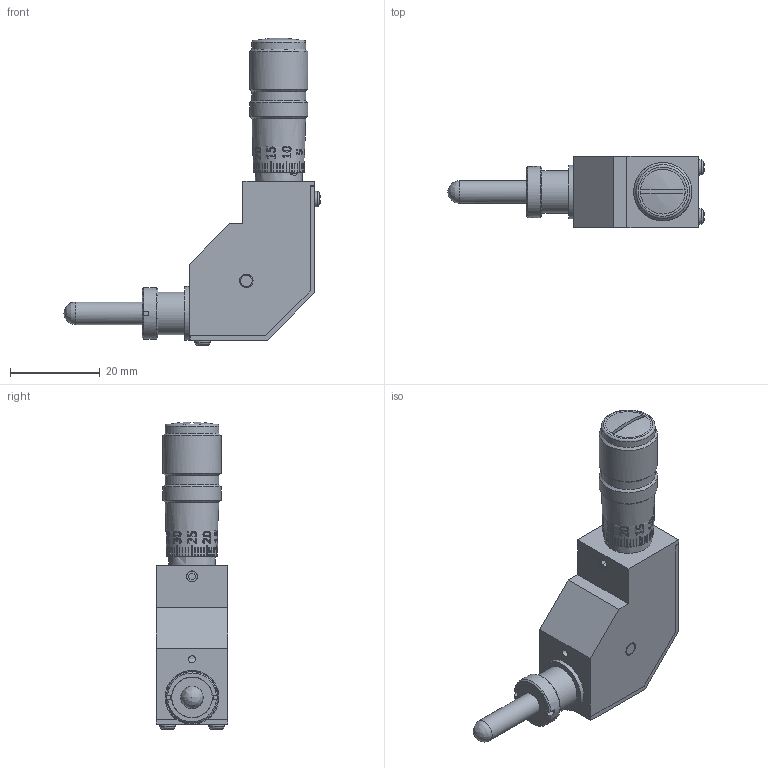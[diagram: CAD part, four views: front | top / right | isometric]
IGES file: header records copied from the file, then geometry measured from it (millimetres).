
Global section: file name: MDCS-13R; native system: Autodesk Inventor 2023; preprocessor: unknown; author: m.kadoya; date: 20231108.122045; units: millimetre
Bounding box: 57.24 x 16 x 68.68 mm (x, y, z)
Volume: 12366.7 mm3; surface area: 9909.7 mm2
Topology: 1 solids, 1 shells, 948 faces, 2502 edges, 1643 vertices
Faces by surface type: bspline 948
